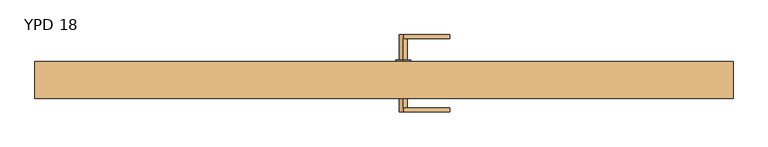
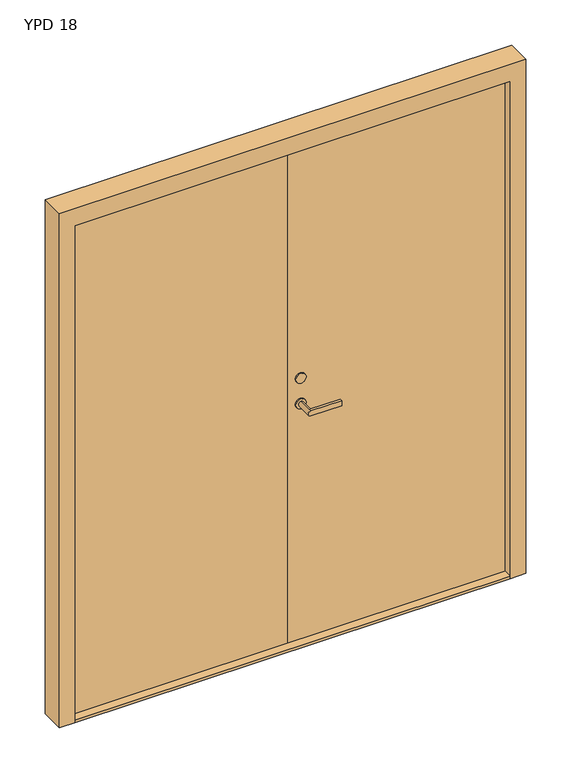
"""IFC4 building model written with IfcOpenShell, lengths in millimetres: door geometry, Pardörr : YPD 18."""

import ifcopenshell
import ifcopenshell.guid

model = None  # the IFC model being written
_history = None  # IfcOwnerHistory: only IFC2X3 demands one
_inside = {}  # id of a spatial element -> (the spatial element, [elements in it])
_under = {}  # id of a project, library or spatial element -> (it, [spatial elements below it])
_declared = {}  # id of a project -> (the project, [libraries it declares])
_typed = {}  # id of a type object -> (the type object, [elements of that type])
_made_of = {}  # id of a material, layer set ... -> (it, [elements and type objects made of it])


def new_model(schema):
    """Start an empty IFC model of exactly this schema.

    Asked for "IFC4X3", IfcOpenShell would pick the latest addendum, in which some entities
    have other attributes; the version numbers below select the first issue.
    IFC2X3 requires an IfcOwnerHistory on every rooted entity: one is made here for all.
    """
    global model, _history
    if schema == "IFC4X3":
        model = ifcopenshell.file(schema_version=(4, 3, 0, 0))
    else:
        model = ifcopenshell.file(schema=schema)
    _inside.clear()
    _under.clear()
    _declared.clear()
    _typed.clear()
    _made_of.clear()
    _history = None
    if model.schema == "IFC2X3":
        org = make("IfcOrganization", Name="unknown")
        user = make(
            "IfcPersonAndOrganization",
            ThePerson=make("IfcPerson", FamilyName="unknown"),
            TheOrganization=org,
        )
        app = make(
            "IfcApplication",
            ApplicationDeveloper=org,
            Version="unknown",
            ApplicationFullName="unknown",
            ApplicationIdentifier="unknown",
        )
        _history = make(
            "IfcOwnerHistory",
            OwningUser=user,
            OwningApplication=app,
            ChangeAction="ADDED",
            CreationDate=0,
        )
    return model


def make(cls, **values):
    """One entity of the class cls with the attributes given. An attribute that is None is left unset."""
    return model.create_entity(
        cls, **{name: value for name, value in values.items() if value is not None}
    )


def rooted(cls, **values):
    """An entity with a GlobalId (a new one), such as an element, a storey or a relation."""
    return make(cls, GlobalId=ifcopenshell.guid.new(), OwnerHistory=_history, **values)


def si_unit(unit_type, name, prefix=None):
    """IfcSIUnit, for example si_unit("LENGTHUNIT", "METRE", prefix="MILLI")."""
    return make("IfcSIUnit", UnitType=unit_type, Prefix=prefix, Name=name)


def assignment(units):
    """IfcUnitAssignment: the units of a project."""
    return None if units is None else make("IfcUnitAssignment", Units=units)


def point(xyz):
    """IfcCartesianPoint."""
    return None if xyz is None else make("IfcCartesianPoint", Coordinates=xyz)


def direction(xyz):
    """IfcDirection."""
    return None if xyz is None else make("IfcDirection", DirectionRatios=xyz)


def frame(location, z_axis=None, x_axis=None):
    """IfcAxis2Placement3D, a coordinate frame: its origin and axes. An axis left out is left unset."""
    return make(
        "IfcAxis2Placement3D",
        Location=point(location),
        Axis=direction(z_axis),
        RefDirection=direction(x_axis),
    )


def frame_2d(location, x_axis=None):
    """IfcAxis2Placement2D, a coordinate frame in the plane: its origin and x axis."""
    return make(
        "IfcAxis2Placement2D", Location=point(location), RefDirection=direction(x_axis)
    )


def origin():
    """The frame at (0, 0, 0) with its axes left unset."""
    return frame((0.0, 0.0, 0.0))


def origin_with_axes():
    """The frame at (0, 0, 0) with the z axis (0, 0, 1) and the x axis (1, 0, 0) written out."""
    return frame((0.0, 0.0, 0.0), z_axis=(0.0, 0.0, 1.0), x_axis=(1.0, 0.0, 0.0))


def place(relative_to, where):
    """IfcLocalPlacement: puts the frame where relative to a parent placement (None: the world)."""
    return make(
        "IfcLocalPlacement", PlacementRelTo=relative_to, RelativePlacement=where
    )


def context(
    kind, dimensions, precision=None, world=None, true_north=None, identifier=None
):
    """IfcGeometricRepresentationContext, for example the 3D "Model" context."""
    return make(
        "IfcGeometricRepresentationContext",
        ContextIdentifier=identifier,
        ContextType=kind,
        CoordinateSpaceDimension=dimensions,
        Precision=precision,
        WorldCoordinateSystem=world,
        TrueNorth=true_north,
    )


def project(units=None, contexts=None):
    """IfcProject with its units and contexts."""
    return rooted(
        "IfcProject",
        Name="project",
        RepresentationContexts=contexts,
        UnitsInContext=assignment(units),
    )


def spatial(cls, under=None, at=None, **own):
    """A site, building, storey or space (cls), placed at a placement, below another one or the project."""
    s = rooted(cls, ObjectPlacement=at, **own)
    if under is not None:
        _under.setdefault(under.id(), (under, []))[1].append(s)
    return s


def polyline(points):
    """IfcPolyline through the points."""
    return make("IfcPolyline", Points=[point(p) for p in points])


def circle_curve(where, radius):
    """IfcCircle in the frame where."""
    return make("IfcCircle", Position=where, Radius=radius)


def trimmed(basis, trim1, trim2, sense, master):
    """IfcTrimmedCurve: the piece of a basis curve between two trims."""
    return make(
        "IfcTrimmedCurve",
        BasisCurve=basis,
        Trim1=trim1,
        Trim2=trim2,
        SenseAgreement=sense,
        MasterRepresentation=master,
    )


def segment(curve, same_sense, transition):
    """IfcCompositeCurveSegment."""
    return make(
        "IfcCompositeCurveSegment",
        Transition=transition,
        SameSense=same_sense,
        ParentCurve=curve,
    )


def composite_curve(segments, self_intersect=None):
    """IfcCompositeCurve: segments joined end to end."""
    return make("IfcCompositeCurve", Segments=segments, SelfIntersect=self_intersect)


def outline(outer, holes=None, kind="AREA"):
    """IfcArbitraryClosedProfileDef: a profile drawn as a closed curve; with holes, ...WithVoids."""
    if holes is None:
        return make("IfcArbitraryClosedProfileDef", ProfileType=kind, OuterCurve=outer)
    return make(
        "IfcArbitraryProfileDefWithVoids",
        ProfileType=kind,
        OuterCurve=outer,
        InnerCurves=holes,
    )


def extrude(swept, where, along, depth):
    """IfcExtrudedAreaSolid: the profile swept, set in the frame where, extruded along a direction by depth."""
    return make(
        "IfcExtrudedAreaSolid",
        SweptArea=swept,
        Position=where,
        ExtrudedDirection=direction(along),
        Depth=depth,
    )


def shape(context_of_items, identifier, shape_type, items):
    """IfcShapeRepresentation: the items that make up one representation, for example the "Body"."""
    return make(
        "IfcShapeRepresentation",
        ContextOfItems=context_of_items,
        RepresentationIdentifier=identifier,
        RepresentationType=shape_type,
        Items=items,
    )


def source(mapping_origin, context_of_items, identifier, shape_type, items):
    """IfcRepresentationMap: a shape defined once, which mapped items show again and again."""
    return make(
        "IfcRepresentationMap",
        MappingOrigin=mapping_origin,
        MappedRepresentation=shape(context_of_items, identifier, shape_type, items),
    )


def transform(
    local_origin,
    x_axis=None,
    y_axis=None,
    z_axis=None,
    scale=None,
    scale2=None,
    scale3=None,
    uniform=True,
):
    """IfcCartesianTransformationOperator3D, or its non-uniform kind. x_axis, y_axis, z_axis: its Axis1, 2, 3."""
    if uniform:
        return make(
            "IfcCartesianTransformationOperator3D",
            Axis1=direction(x_axis),
            Axis2=direction(y_axis),
            LocalOrigin=point(local_origin),
            Scale=scale,
            Axis3=direction(z_axis),
        )
    return make(
        "IfcCartesianTransformationOperator3DnonUniform",
        Axis1=direction(x_axis),
        Axis2=direction(y_axis),
        LocalOrigin=point(local_origin),
        Scale=scale,
        Axis3=direction(z_axis),
        Scale2=scale2,
        Scale3=scale3,
    )


def mapped(mapping_source, mapping_target):
    """IfcMappedItem: shows the shape of a source again, moved by a transform."""
    return make(
        "IfcMappedItem", MappingSource=mapping_source, MappingTarget=mapping_target
    )


def made_of(thing, what):
    """Note that an element or type object is made of a material, layer set ...; save() writes the relation."""
    if what is not None:
        _made_of.setdefault(what.id(), (what, []))[1].append(thing)
    return thing


def element(
    cls,
    number,
    at=None,
    inside=None,
    cuts=None,
    type_object=None,
    material=None,
    context=None,
    identifier="Body",
    shape_type=None,
    held_by="IfcProductDefinitionShape",
    body=None,
    shapes=None,
    **own,
):
    """One element of the class cls, such as IfcWall. Its Tag is "e" and its number.

    at: its placement. inside: the storey or other place that contains it. cuts: it is an
    opening in that element (IfcRelVoidsElement). A single representation is given by context,
    identifier, shape_type and body (its items); several are given by shapes. held_by: the class
    of the entity that holds the representations. save() writes the other relations.
    """
    e = rooted(cls, Tag="e%d" % number, ObjectPlacement=at, **own)
    if body is not None:
        shapes = [shape(context, identifier, shape_type, body)]
    if shapes is not None:
        e.Representation = make(held_by, Representations=shapes)
    if inside is not None:
        _inside.setdefault(inside.id(), (inside, []))[1].append(e)
    if cuts is not None:
        rooted(
            "IfcRelVoidsElement", RelatingBuildingElement=cuts, RelatedOpeningElement=e
        )
    if type_object is not None:
        _typed.setdefault(type_object.id(), (type_object, []))[1].append(e)
    return made_of(e, material)


def aggregate(whole, parts):
    """IfcRelAggregates: a whole, such as a stair, and the parts it consists of."""
    return rooted("IfcRelAggregates", RelatingObject=whole, RelatedObjects=parts)


def save(model, path):
    """Write the relations noted so far, then the file.

    IfcRelAggregates (storeys below a building ...), IfcRelContainedInSpatialStructure (elements
    in a storey), IfcRelDefinesByType, IfcRelAssociatesMaterial and IfcRelDeclares: one each for
    every whole, place, type object, material and project.
    """
    for whole, parts in _under.values():
        aggregate(whole, parts)
    for where, things in _inside.values():
        rooted(
            "IfcRelContainedInSpatialStructure",
            RelatedElements=things,
            RelatingStructure=where,
        )
    for kind, things in _typed.values():
        rooted("IfcRelDefinesByType", RelatedObjects=things, RelatingType=kind)
    for what, things in _made_of.values():
        rooted("IfcRelAssociatesMaterial", RelatedObjects=things, RelatingMaterial=what)
    for by, libraries in _declared.values():
        rooted("IfcRelDeclares", RelatingContext=by, RelatedDefinitions=libraries)
    model.write(path)


def plane_surface(at):
    """IfcPlane: the flat surface through the origin of the frame at, square to its z axis."""
    return make("IfcPlane", Position=at)


def cylinder_surface(at, radius):
    """IfcCylindricalSurface: all points at the distance radius from the z axis of the frame at."""
    return make("IfcCylindricalSurface", Position=at, Radius=radius)


def advanced_brep(points, edges, surfaces, faces):
    """IfcAdvancedBrep: a solid bounded by faces that lie on surfaces and meet in shared edges.

    An edge is (start, end): straight between two places in points (the first is 0);
    or (start, end, curve); or (start, end, curve, False) where it runs against its curve.
    A face is (place in surfaces, loops), or (place, loops, False) where it looks against
    its surface's normal. A loop lists edges by number (the first is 1), with a minus sign
    where the edge is run from its end to its start. The first loop is the outer one.
    """
    corners = [point(p) for p in points]
    vertices = [make("IfcVertexPoint", VertexGeometry=c) for c in corners]
    made = []
    for start, end, *more in edges:
        made.append(
            make(
                "IfcEdgeCurve",
                EdgeStart=vertices[start],
                EdgeEnd=vertices[end],
                EdgeGeometry=more[0] if more else make("IfcPolyline", Points=[corners[start], corners[end]]),
                SameSense=more[1] if len(more) > 1 else True,
            )
        )
    hull = []
    for where, loops, *sense in faces:
        bounds = []
        for j, loop in enumerate(loops):
            ring = [make("IfcOrientedEdge", EdgeElement=made[abs(k) - 1], Orientation=k > 0) for k in loop]
            bounds.append(
                make(
                    "IfcFaceOuterBound" if j == 0 else "IfcFaceBound",
                    Bound=make("IfcEdgeLoop", EdgeList=ring),
                    Orientation=True,
                )
            )
        hull.append(make("IfcAdvancedFace", Bounds=bounds, FaceSurface=surfaces[where], SameSense=sense[0] if sense else True))
    return make("IfcAdvancedBrep", Outer=make("IfcClosedShell", CfsFaces=hull))


def ypd_18_4cc69b65(model_context):
    return source(origin(), model_context, "Body", "SolidModel", [
        extrude(outline(polyline([(-845.0, 90.0), (-845.0, 150.0), (0.0, 150.0), (0.0, 90.0), (-845.0, 90.0)])), frame((0.0, 0.0, 10.0), z_axis=(0.0, 0.0, 1.0), x_axis=(1.0, 0.0, 0.0)), (0.0, 0.0, 1.0), 2030.0),
        advanced_brep(
        [(50.0, 85.0, 967.5), (50.0, 85.0, 987.5), (50.0, 30.0, 987.5), (50.0, 30.0, 967.5), (50.0, 20.0, 967.5), (50.0, 20.0, 987.5), (170.0, 30.0, 987.5), (170.0, 30.0, 967.5), (170.0, 20.0, 967.5), (170.0, 20.0, 987.5)],
        [
            (0, 1, circle_curve(frame((50.0, 85.0, 977.5), z_axis=(0.0, 1.0, 0.0), x_axis=(0.0, 0.0, 1.0)), 10.0)),
            (1, 0, circle_curve(frame((50.0, 85.0, 977.5), z_axis=(0.0, 1.0, 0.0), x_axis=(0.0, 0.0, 1.0)), 10.0)),
            (1, 2),
            (2, 3, circle_curve(frame((50.0, 30.0, 977.5), z_axis=(0.0, 1.0, 0.0), x_axis=(0.0, 0.0, 1.0)), 10.0)),
            (3, 0),
            (3, 4),
            (4, 5, circle_curve(frame((50.0, 20.0, 977.5), z_axis=(0.0, 1.0, 0.0), x_axis=(0.0, 0.0, 1.0)), 10.0)),
            (5, 2),
            (2, 6),
            (6, 7),
            (7, 3),
            (7, 8),
            (8, 4),
            (6, 9),
            (9, 8),
            (5, 9),
        ],
        [
            plane_surface(frame((50.0, 85.0, 987.5), z_axis=(0.0, 1.0, 0.0), x_axis=(-1.0, 0.0, 0.0))),
            cylinder_surface(frame((50.0, 20.0, 977.5), z_axis=(0.0, 1.0, 0.0), x_axis=(0.0, 0.0, 1.0)), 10.0),
            plane_surface(frame((50.0, 30.0, 967.5), z_axis=(0.0, 1.0, 0.0), x_axis=(1.0, 0.0, 0.0))),
            plane_surface(frame((50.0, 30.0, 967.5), z_axis=(0.0, 0.0, -1.0), x_axis=(0.0, -1.0, 0.0))),
            plane_surface(frame((170.0, 30.0, 967.5), z_axis=(1.0, 0.0, 0.0), x_axis=(0.0, -1.0, 0.0))),
            plane_surface(frame((170.0, 30.0, 987.5), z_axis=(0.0, 0.0, 1.0), x_axis=(0.0, -1.0, 0.0))),
            plane_surface(frame((50.0, 20.0, 967.5), z_axis=(0.0, -1.0, 0.0), x_axis=(-1.0, 0.0, 0.0))),
        ],
        [
            (0, [[1, 2]]),
            (1, [[3, 4, 5, -2]]),
            (1, [[-5, 6, 7, 8, -3, -1]]),
            (2, [[-4, 9, 10, 11]]),
            (3, [[12, 13, -6, -11]]),
            (4, [[14, 15, -12, -10]]),
            (5, [[-8, 16, -14, -9]]),
            (6, [[-7, -13, -15, -16]]),
        ],
    ),
        advanced_brep(
        [(50.0, 155.0, 967.5), (50.0, 155.0, 987.5), (50.0, 210.0, 967.5), (50.0, 210.0, 987.5), (50.0, 220.0, 967.5), (50.0, 220.0, 987.5), (170.0, 210.0, 967.5), (170.0, 210.0, 987.5), (170.0, 220.0, 967.5), (170.0, 220.0, 987.5)],
        [
            (0, 1, circle_curve(frame((50.0, 155.0, 977.5), z_axis=(0.0, -1.0, 0.0), x_axis=(0.0, 0.0, 1.0)), 10.0)),
            (1, 0, circle_curve(frame((50.0, 155.0, 977.5), z_axis=(0.0, -1.0, 0.0), x_axis=(0.0, 0.0, 1.0)), 10.0)),
            (0, 2),
            (2, 3, circle_curve(frame((50.0, 210.0, 977.5), z_axis=(0.0, -1.0, 0.0), x_axis=(0.0, 0.0, 1.0)), 10.0)),
            (3, 1),
            (4, 2),
            (3, 5),
            (5, 4, circle_curve(frame((50.0, 220.0, 977.5), z_axis=(0.0, -1.0, 0.0), x_axis=(0.0, 0.0, 1.0)), 10.0)),
            (2, 6),
            (6, 7),
            (7, 3),
            (8, 6),
            (4, 8),
            (9, 7),
            (8, 9),
            (9, 5),
        ],
        [
            plane_surface(frame((50.0, 155.0, 987.5), z_axis=(0.0, -1.0, 0.0), x_axis=(1.0, 0.0, 0.0))),
            cylinder_surface(frame((50.0, 155.0, 977.5), z_axis=(0.0, 1.0, 0.0), x_axis=(0.0, 0.0, 1.0)), 10.0),
            plane_surface(frame((50.0, 210.0, 967.5), z_axis=(0.0, -1.0, 0.0), x_axis=(-1.0, 0.0, 0.0))),
            plane_surface(frame((50.0, 220.0, 967.5), z_axis=(0.0, 0.0, -1.0), x_axis=(0.0, -1.0, 0.0))),
            plane_surface(frame((170.0, 220.0, 967.5), z_axis=(1.0, 0.0, 0.0), x_axis=(0.0, -1.0, 0.0))),
            plane_surface(frame((170.0, 220.0, 987.5), z_axis=(0.0, 0.0, 1.0), x_axis=(0.0, -1.0, 0.0))),
            plane_surface(frame((50.0, 220.0, 967.5), z_axis=(0.0, 1.0, 0.0), x_axis=(1.0, 0.0, 0.0))),
        ],
        [
            (0, [[1, 2]]),
            (1, [[3, 4, 5, -1]]),
            (1, [[6, -3, -2, -5, 7, 8]]),
            (2, [[-4, 9, 10, 11]]),
            (3, [[12, -9, -6, 13]]),
            (4, [[14, -10, -12, 15]]),
            (5, [[-7, -11, -14, 16]]),
            (6, [[-8, -16, -15, -13]]),
        ],
    ),
        extrude(outline(composite_curve([segment(trimmed(circle_curve(frame_2d((977.5, 50.0)), 20.0), [point((957.5, 50.0))], [point((997.5, 50.0))], False, "CARTESIAN"), True, "CONTINUOUS"), segment(trimmed(circle_curve(frame_2d((977.5, 50.0)), 20.0), [point((997.5, 50.0))], [point((957.5, 50.0))], False, "CARTESIAN"), True, "CONTINUOUS")], self_intersect=False)), frame((0.0, 85.0, 0.0), z_axis=(0.0, 1.0, 0.0), x_axis=(0.0, 0.0, 1.0)), (0.0, 0.0, 1.0), 5.0),
        extrude(outline(composite_curve([segment(trimmed(circle_curve(frame_2d((1082.5, 50.0)), 20.0), [point((1062.5, 50.0))], [point((1102.5, 50.0))], False, "CARTESIAN"), True, "CONTINUOUS"), segment(trimmed(circle_curve(frame_2d((1082.5, 50.0)), 20.0), [point((1102.5, 50.0))], [point((1062.5, 50.0))], False, "CARTESIAN"), True, "CONTINUOUS")], self_intersect=False)), frame((0.0, 85.0, 0.0), z_axis=(0.0, 1.0, 0.0), x_axis=(0.0, 0.0, 1.0)), (0.0, 0.0, 1.0), 5.0),
        extrude(outline(composite_curve([segment(trimmed(circle_curve(frame_2d((977.5, 50.0)), 20.0), [point((957.5, 50.0))], [point((997.5, 50.0))], False, "CARTESIAN"), True, "CONTINUOUS"), segment(trimmed(circle_curve(frame_2d((977.5, 50.0)), 20.0), [point((997.5, 50.0))], [point((957.5, 50.0))], False, "CARTESIAN"), True, "CONTINUOUS")], self_intersect=False)), frame((0.0, 150.0, 0.0), z_axis=(0.0, 1.0, 0.0), x_axis=(0.0, 0.0, 1.0)), (0.0, 0.0, 1.0), 5.0),
        extrude(outline(composite_curve([segment(trimmed(circle_curve(frame_2d((1082.5, 50.0)), 20.0), [point((1062.5, 50.0))], [point((1102.5, 50.0))], False, "CARTESIAN"), True, "CONTINUOUS"), segment(trimmed(circle_curve(frame_2d((1082.5, 50.0)), 20.0), [point((1102.5, 50.0))], [point((1062.5, 50.0))], False, "CARTESIAN"), True, "CONTINUOUS")], self_intersect=False)), frame((0.0, 150.0, 0.0), z_axis=(0.0, 1.0, 0.0), x_axis=(0.0, 0.0, 1.0)), (0.0, 0.0, 1.0), 5.0),
        extrude(outline(polyline([(845.0, 90.0), (0.0, 90.0), (0.0, 150.0), (845.0, 150.0), (845.0, 90.0)])), frame((0.0, 0.0, 10.0), z_axis=(0.0, 0.0, 1.0), x_axis=(1.0, 0.0, 0.0)), (0.0, 0.0, 1.0), 2030.0),
        extrude(outline(polyline([(2110.0, 905.0), (2110.0, -905.0), (0.0, -905.0), (0.0, -845.0), (2040.0, -845.0), (2040.0, 845.0), (0.0, 845.0), (0.0, 905.0), (2110.0, 905.0)])), frame((0.0, 55.0, 0.0), z_axis=(0.0, 1.0, 0.0), x_axis=(0.0, 0.0, 1.0)), (0.0, 0.0, 1.0), 95.0),
        extrude(outline(polyline([(-845.0, 55.0), (-845.0, 150.0), (845.0, 150.0), (845.0, 55.0), (-845.0, 55.0)])), origin_with_axes(), (0.0, 0.0, 1.0), 10.0),
    ])


if __name__ == "__main__":
    model = new_model("IFC4")
    model_context = context("Model", 3, world=origin())
    ifc_project = project(units=[si_unit("LENGTHUNIT", "METRE", prefix="MILLI")], contexts=[model_context])
    site = spatial("IfcSite", under=ifc_project)
    building = spatial("IfcBuilding", under=site)
    placement = place(None, origin())
    ypd_18_shape = ypd_18_4cc69b65(model_context)
    element("IfcDoor", 1, ObjectType="Pardörr : YPD 18", at=placement, inside=building, context=model_context, shape_type="MappedRepresentation", body=[
        mapped(ypd_18_shape, transform((0.0, 0.0, 0.0), x_axis=(1.0, 0.0, 0.0), y_axis=(0.0, 1.0, 0.0), z_axis=(0.0, 0.0, 1.0))),
    ])
    save(model, "model.ifc")
